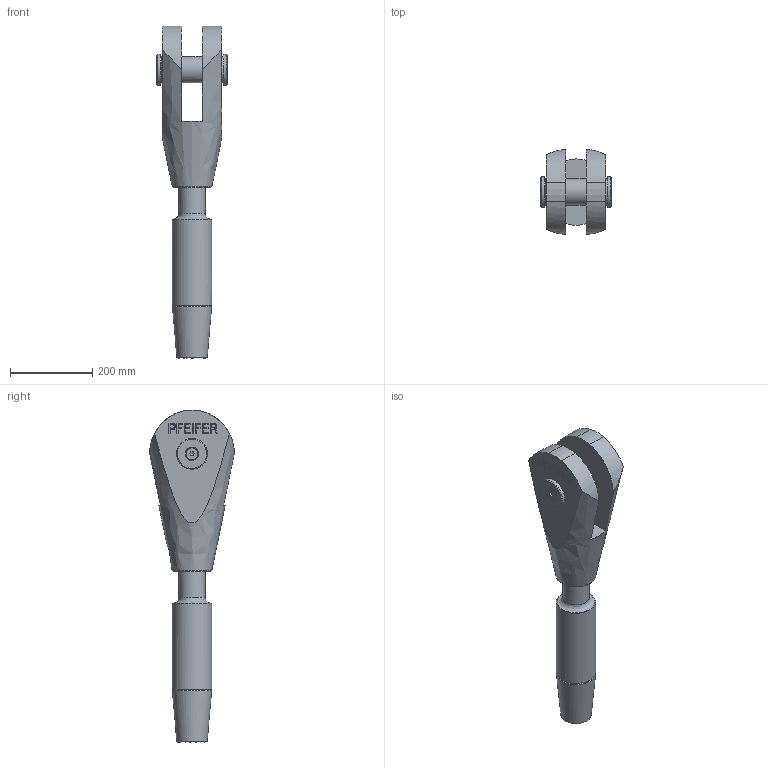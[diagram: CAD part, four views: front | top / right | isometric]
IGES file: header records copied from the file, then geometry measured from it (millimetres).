
Global section: file name: 520-064-GAK-ADA; native system: Autodesk Inventor 2016; preprocessor: unknown; author: Administrator; date: 20200703.131214; units: centimetre
Bounding box: 172.3 x 206.41 x 808.18 mm (x, y, z)
Volume: 7965849.7 mm3; surface area: 474243.5 mm2
Topology: 2 solids, 4 shells, 192 faces, 507 edges, 340 vertices
Faces by surface type: bspline 192
